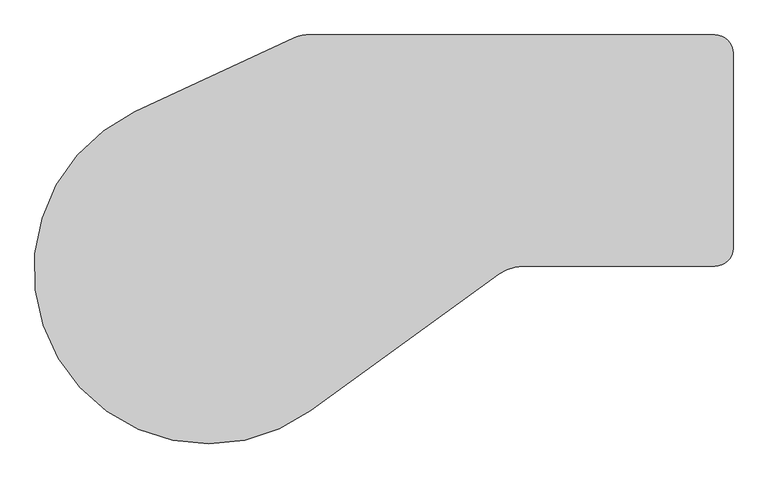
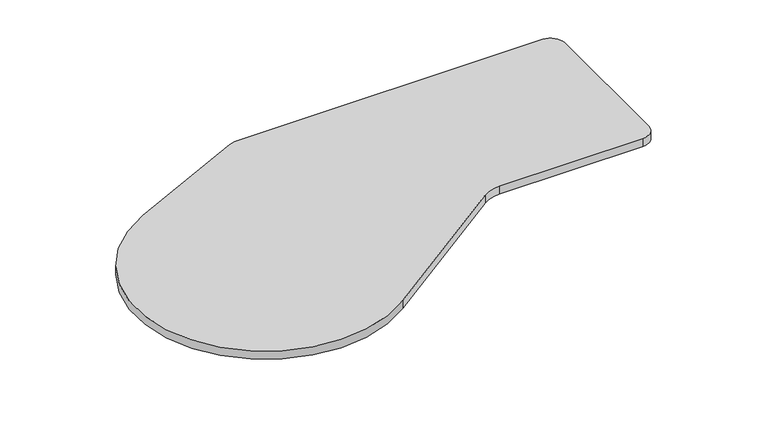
"""IFC4 building model written with IfcOpenShell, lengths in millimetres: furniture geometry, Steelcase - Answer Solution - Universal Table - Bubble Jetty - 3mm Edge : 24D x 72W - Left."""

from ifc_helpers import new_model, si_unit, point, frame, frame_2d, origin, place, context, project, spatial, polyline, circle_curve, trimmed, segment, composite_curve, outline, extrude, source, transform, mapped, element, save


def furniture_77380ddc(model_context):
    return source(origin(), model_context, "Body", "SweptSolid", [
        extrude(outline(composite_curve([segment(trimmed(circle_curve(frame_2d((-1116.6074249, -76.1932453)), 73.1457569), [point((-1147.5201703, -9.9006822))], [point((-1116.6074249, -3.0474884))], False, "CARTESIAN"), True, "CONTINUOUS"), segment(polyline([(-1116.6074249, -3.0474884), (-50.7998062, -3.0474884)]), True, "CONTINUOUS"), segment(trimmed(circle_curve(frame_2d((-50.7998062, -50.7992249)), 47.7517365), [point((-50.7998062, -3.0474884))], [point((-3.0480698, -50.7992249))], False, "CARTESIAN"), True, "CONTINUOUS"), segment(polyline([(-3.0480698, -50.7992249), (-3.0480698, -558.7996124)]), True, "CONTINUOUS"), segment(trimmed(circle_curve(frame_2d((-50.8009689, -558.7996124)), 47.7528992), [point((-3.0480698, -558.7996124))], [point((-50.8009689, -606.5525116))], False, "CARTESIAN"), True, "CONTINUOUS"), segment(polyline([(-50.8009689, -606.5525116), (-550.9262558, -606.5525116)]), True, "CONTINUOUS"), segment(trimmed(circle_curve(frame_2d((-550.9262558, -711.2006241)), 104.6481125), [point((-550.9262558, -606.5525116))], [point((-612.2962707, -626.4365473))], True, "CARTESIAN"), True, "CONTINUOUS"), segment(polyline([(-612.2962707, -626.4365473), (-1105.2662567, -983.3516052)]), True, "CONTINUOUS"), segment(trimmed(circle_curve(frame_2d((-1371.5999711, -615.4922938)), 454.1520895), [point((-1105.2662567, -983.3516052))], [point((-1563.5330166, -203.8907555))], False, "CARTESIAN"), True, "CONTINUOUS"), segment(polyline([(-1563.5330166, -203.8907555), (-1147.5201703, -9.9006822)]), True, "CONTINUOUS")], self_intersect=False)), frame((0.0, 0.0, 668.274), z_axis=(0.0, 0.0, 1.0), x_axis=(1.0, 0.0, 0.0)), (0.0, 0.0, 1.0), 30.0990349),
    ])


if __name__ == "__main__":
    model = new_model("IFC4")
    model_context = context("Model", 3, world=origin())
    ifc_project = project(units=[si_unit("LENGTHUNIT", "METRE", prefix="MILLI")], contexts=[model_context])
    site = spatial("IfcSite", under=ifc_project)
    building = spatial("IfcBuilding", under=site)
    placement = place(None, origin())
    furniture_shape = furniture_77380ddc(model_context)
    element("IfcFurniture", 1, ObjectType="Steelcase - Answer Solution - Universal Table - Bubble Jetty - 3mm Edge : 24D x 72W - Left", at=placement, inside=building, context=model_context, shape_type="MappedRepresentation", body=[
        mapped(furniture_shape, transform((0.0, 0.0, 0.0), x_axis=(1.0, 0.0, 0.0), y_axis=(0.0, 1.0, 0.0), z_axis=(0.0, 0.0, 1.0))),
    ])
    save(model, "model.ifc")
